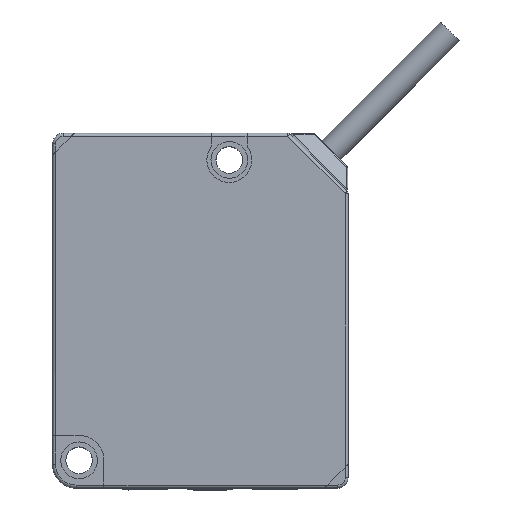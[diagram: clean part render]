
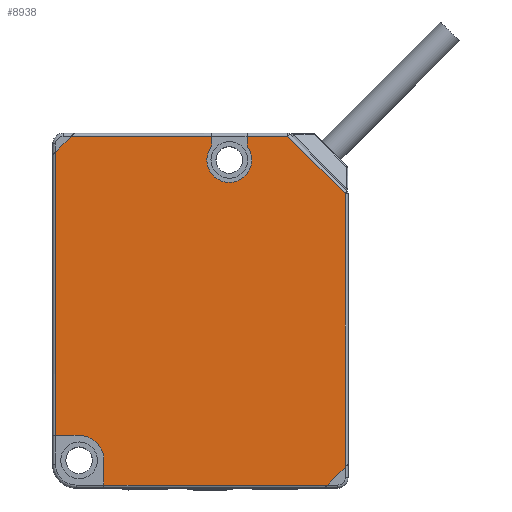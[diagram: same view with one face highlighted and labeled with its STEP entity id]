
A CAD part, top view. The second image highlights one B-rep face of the part: STEP entity #8938.
In plain terms, the highlighted planar face has unit normal (0, 0, 1).
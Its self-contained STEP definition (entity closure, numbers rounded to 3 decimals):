
#4 = CARTESIAN_POINT ( 'NONE',  ( -0.725, -0.975, 26.6 ) ) ;
#65 = CARTESIAN_POINT ( 'NONE',  ( 49.743, 49.55, 26.6 ) ) ;
#143 = LINE ( 'NONE', #5805, #2085 ) ;
#209 = DIRECTION ( 'NONE',  ( 0., -1., 0. ) ) ;
#235 = VECTOR ( 'NONE', #11257, 1000. ) ;
#356 = VERTEX_POINT ( 'NONE', #8080 ) ;
#398 = CARTESIAN_POINT ( 'NONE',  ( 3.197, 59.5, 26.6 ) ) ;
#485 = DIRECTION ( 'NONE',  ( 1., 0., 0. ) ) ;
#570 = ORIENTED_EDGE ( 'NONE', *, *, #2828, .T. ) ;
#668 = EDGE_CURVE ( 'NONE', #7715, #8196, #947, .T. ) ;
#702 = CARTESIAN_POINT ( 'NONE',  ( 39.793, 59.5, 26.6 ) ) ;
#947 = LINE ( 'NONE', #65, #11458 ) ;
#1070 = FACE_OUTER_BOUND ( 'NONE', #10772, .T. ) ;
#1074 = CARTESIAN_POINT ( 'NONE',  ( 26.9, 57.832, 26.6 ) ) ;
#1159 = CARTESIAN_POINT ( 'NONE',  ( -0.725, 8.9, 26.6 ) ) ;
#1170 = VECTOR ( 'NONE', #6123, 1000. ) ;
#1232 = CIRCLE ( 'NONE', #2736, 4.2 ) ;
#1297 = CARTESIAN_POINT ( 'NONE',  ( 26.9, -0.975, 26.6 ) ) ;
#1707 = ORIENTED_EDGE ( 'NONE', *, *, #2780, .T. ) ;
#1711 = PLANE ( 'NONE',  #7727 ) ;
#1904 = CARTESIAN_POINT ( 'NONE',  ( 46.5, 0.5, 26.6 ) ) ;
#2004 = ORIENTED_EDGE ( 'NONE', *, *, #8537, .F. ) ;
#2085 = VECTOR ( 'NONE', #3687, 1000. ) ;
#2130 = LINE ( 'NONE', #9404, #8491 ) ;
#2203 = LINE ( 'NONE', #8260, #7166 ) ;
#2239 = CARTESIAN_POINT ( 'NONE',  ( 47., 0.5, 26.6 ) ) ;
#2255 = DIRECTION ( 'NONE',  ( 0., 0., 1. ) ) ;
#2356 = ORIENTED_EDGE ( 'NONE', *, *, #7766, .F. ) ;
#2469 = ORIENTED_EDGE ( 'NONE', *, *, #6369, .F. ) ;
#2581 = VERTEX_POINT ( 'NONE', #8651 ) ;
#2592 = DIRECTION ( 'NONE',  ( 0.707, -0.707, 0. ) ) ;
#2606 = EDGE_CURVE ( 'NONE', #2581, #7513, #7538, .T. ) ;
#2654 = VECTOR ( 'NONE', #10258, 1000. ) ;
#2732 = CARTESIAN_POINT ( 'NONE',  ( 29.9, 55.5, 26.6 ) ) ;
#2736 = AXIS2_PLACEMENT_3D ( 'NONE', #9802, #9924, #10642 ) ;
#2755 = CARTESIAN_POINT ( 'NONE',  ( 49.5, 49.793, 26.6 ) ) ;
#2780 = EDGE_CURVE ( 'NONE', #3915, #9777, #6001, .T. ) ;
#2828 = EDGE_CURVE ( 'NONE', #9589, #4608, #11023, .T. ) ;
#2948 = VERTEX_POINT ( 'NONE', #1074 ) ;
#3038 = VECTOR ( 'NONE', #9065, 1000. ) ;
#3193 = CARTESIAN_POINT ( 'NONE',  ( 45.9, -0.1, 26.6 ) ) ;
#3194 = ORIENTED_EDGE ( 'NONE', *, *, #8454, .T. ) ;
#3283 = VECTOR ( 'NONE', #5812, 1000. ) ;
#3466 = EDGE_CURVE ( 'NONE', #6661, #9777, #9616, .T. ) ;
#3480 = DIRECTION ( 'NONE',  ( 0., 0., 1. ) ) ;
#3618 = CIRCLE ( 'NONE', #6598, 3.8 ) ;
#3663 = EDGE_CURVE ( 'NONE', #2948, #9304, #7523, .T. ) ;
#3687 = DIRECTION ( 'NONE',  ( -0.707, -0.707, 0. ) ) ;
#3915 = VERTEX_POINT ( 'NONE', #5287 ) ;
#4014 = VECTOR ( 'NONE', #4746, 1000. ) ;
#4096 = VERTEX_POINT ( 'NONE', #10404 ) ;
#4203 = VERTEX_POINT ( 'NONE', #7985 ) ;
#4608 = VERTEX_POINT ( 'NONE', #10851 ) ;
#4609 = DIRECTION ( 'NONE',  ( 1., 0., 0. ) ) ;
#4743 = EDGE_CURVE ( 'NONE', #7897, #9304, #2130, .T. ) ;
#4746 = DIRECTION ( 'NONE',  ( 1., 0., 0. ) ) ;
#4828 = EDGE_CURVE ( 'NONE', #7513, #6504, #10302, .T. ) ;
#4932 = AXIS2_PLACEMENT_3D ( 'NONE', #2732, #6474, #4609 ) ;
#5280 = CIRCLE ( 'NONE', #5641, 3.8 ) ;
#5287 = CARTESIAN_POINT ( 'NONE',  ( 32.9, 59.5, 26.6 ) ) ;
#5352 = VECTOR ( 'NONE', #11020, 1000. ) ;
#5636 = CARTESIAN_POINT ( 'NONE',  ( 39.966, 59.5, 26.6 ) ) ;
#5641 = AXIS2_PLACEMENT_3D ( 'NONE', #6105, #3480, #6340 ) ;
#5700 = LINE ( 'NONE', #5636, #5352 ) ;
#5805 = CARTESIAN_POINT ( 'NONE',  ( 3.197, 59.5, 26.6 ) ) ;
#5812 = DIRECTION ( 'NONE',  ( 0., -1., 0. ) ) ;
#5834 = DIRECTION ( 'NONE',  ( 1., 0., 0. ) ) ;
#5961 = ORIENTED_EDGE ( 'NONE', *, *, #3663, .T. ) ;
#6001 = LINE ( 'NONE', #6942, #1170 ) ;
#6050 = ORIENTED_EDGE ( 'NONE', *, *, #668, .F. ) ;
#6105 = CARTESIAN_POINT ( 'NONE',  ( 29.9, 55.5, 26.6 ) ) ;
#6123 = DIRECTION ( 'NONE',  ( 0., -1., 0. ) ) ;
#6239 = ORIENTED_EDGE ( 'NONE', *, *, #2606, .F. ) ;
#6340 = DIRECTION ( 'NONE',  ( 1., 0., 0. ) ) ;
#6369 = EDGE_CURVE ( 'NONE', #3915, #7715, #5700, .T. ) ;
#6474 = DIRECTION ( 'NONE',  ( 0., 0., 1. ) ) ;
#6504 = VERTEX_POINT ( 'NONE', #10530 ) ;
#6545 = ORIENTED_EDGE ( 'NONE', *, *, #4828, .F. ) ;
#6598 = AXIS2_PLACEMENT_3D ( 'NONE', #9672, #2255, #5834 ) ;
#6661 = VERTEX_POINT ( 'NONE', #8869 ) ;
#6753 = DIRECTION ( 'NONE',  ( 0., 1., 0. ) ) ;
#6920 = ORIENTED_EDGE ( 'NONE', *, *, #10945, .T. ) ;
#6942 = CARTESIAN_POINT ( 'NONE',  ( 32.9, -0.975, 26.6 ) ) ;
#7166 = VECTOR ( 'NONE', #209, 1000. ) ;
#7291 = DIRECTION ( 'NONE',  ( 1., 0., 0. ) ) ;
#7417 = CARTESIAN_POINT ( 'NONE',  ( 0.5, -0.975, 26.6 ) ) ;
#7424 = CARTESIAN_POINT ( 'NONE',  ( 49.5, 50.293, 26.6 ) ) ;
#7513 = VERTEX_POINT ( 'NONE', #1904 ) ;
#7523 = LINE ( 'NONE', #1297, #7935 ) ;
#7538 = LINE ( 'NONE', #3193, #2654 ) ;
#7599 = EDGE_CURVE ( 'NONE', #7897, #9589, #143, .T. ) ;
#7623 = CARTESIAN_POINT ( 'NONE',  ( 0.5, 56.803, 26.6 ) ) ;
#7715 = VERTEX_POINT ( 'NONE', #702 ) ;
#7727 = AXIS2_PLACEMENT_3D ( 'NONE', #4, #10782, #7291 ) ;
#7766 = EDGE_CURVE ( 'NONE', #2948, #4203, #5280, .T. ) ;
#7897 = VERTEX_POINT ( 'NONE', #398 ) ;
#7935 = VECTOR ( 'NONE', #6753, 1000. ) ;
#7985 = CARTESIAN_POINT ( 'NONE',  ( 26.1, 55.5, 26.6 ) ) ;
#8051 = CARTESIAN_POINT ( 'NONE',  ( 26.9, 59.5, 26.6 ) ) ;
#8080 = CARTESIAN_POINT ( 'NONE',  ( 4.5, 8.9, 26.6 ) ) ;
#8196 = VERTEX_POINT ( 'NONE', #2755 ) ;
#8260 = CARTESIAN_POINT ( 'NONE',  ( 8.7, -0.975, 26.6 ) ) ;
#8454 = EDGE_CURVE ( 'NONE', #4096, #6504, #2203, .T. ) ;
#8458 = ORIENTED_EDGE ( 'NONE', *, *, #3466, .F. ) ;
#8491 = VECTOR ( 'NONE', #485, 1000. ) ;
#8537 = EDGE_CURVE ( 'NONE', #4203, #6661, #3618, .T. ) ;
#8651 = CARTESIAN_POINT ( 'NONE',  ( 49.5, 3.5, 26.6 ) ) ;
#8869 = CARTESIAN_POINT ( 'NONE',  ( 33.7, 55.5, 26.6 ) ) ;
#8938 = ADVANCED_FACE ( 'NONE', ( #1070 ), #1711, .T. ) ;
#9065 = DIRECTION ( 'NONE',  ( 0., -1., 0. ) ) ;
#9205 = LINE ( 'NONE', #1159, #4014 ) ;
#9304 = VERTEX_POINT ( 'NONE', #8051 ) ;
#9404 = CARTESIAN_POINT ( 'NONE',  ( 27.4, 59.5, 26.6 ) ) ;
#9589 = VERTEX_POINT ( 'NONE', #7623 ) ;
#9616 = CIRCLE ( 'NONE', #4932, 3.8 ) ;
#9672 = CARTESIAN_POINT ( 'NONE',  ( 29.9, 55.5, 26.6 ) ) ;
#9777 = VERTEX_POINT ( 'NONE', #9872 ) ;
#9802 = CARTESIAN_POINT ( 'NONE',  ( 4.5, 4.7, 26.6 ) ) ;
#9805 = ORIENTED_EDGE ( 'NONE', *, *, #10360, .F. ) ;
#9872 = CARTESIAN_POINT ( 'NONE',  ( 32.9, 57.832, 26.6 ) ) ;
#9924 = DIRECTION ( 'NONE',  ( 0., 0., -1. ) ) ;
#9935 = EDGE_CURVE ( 'NONE', #4608, #356, #9205, .T. ) ;
#10258 = DIRECTION ( 'NONE',  ( -0.707, -0.707, 0. ) ) ;
#10302 = LINE ( 'NONE', #2239, #235 ) ;
#10360 = EDGE_CURVE ( 'NONE', #8196, #2581, #11141, .T. ) ;
#10404 = CARTESIAN_POINT ( 'NONE',  ( 8.7, 4.7, 26.6 ) ) ;
#10502 = ORIENTED_EDGE ( 'NONE', *, *, #9935, .T. ) ;
#10530 = CARTESIAN_POINT ( 'NONE',  ( 8.7, 0.5, 26.6 ) ) ;
#10642 = DIRECTION ( 'NONE',  ( 0., -1., 0. ) ) ;
#10724 = ORIENTED_EDGE ( 'NONE', *, *, #4743, .F. ) ;
#10772 = EDGE_LOOP ( 'NONE', ( #2356, #5961, #10724, #10899, #570, #10502, #6920, #3194, #6545, #6239, #9805, #6050, #2469, #1707, #8458, #2004 ) ) ;
#10782 = DIRECTION ( 'NONE',  ( 0., 0., 1. ) ) ;
#10851 = CARTESIAN_POINT ( 'NONE',  ( 0.5, 8.9, 26.6 ) ) ;
#10899 = ORIENTED_EDGE ( 'NONE', *, *, #7599, .T. ) ;
#10945 = EDGE_CURVE ( 'NONE', #356, #4096, #1232, .T. ) ;
#11020 = DIRECTION ( 'NONE',  ( 1., 0., 0. ) ) ;
#11023 = LINE ( 'NONE', #7417, #3038 ) ;
#11141 = LINE ( 'NONE', #7424, #3283 ) ;
#11257 = DIRECTION ( 'NONE',  ( -1., 0., 0. ) ) ;
#11458 = VECTOR ( 'NONE', #2592, 1000. ) ;
